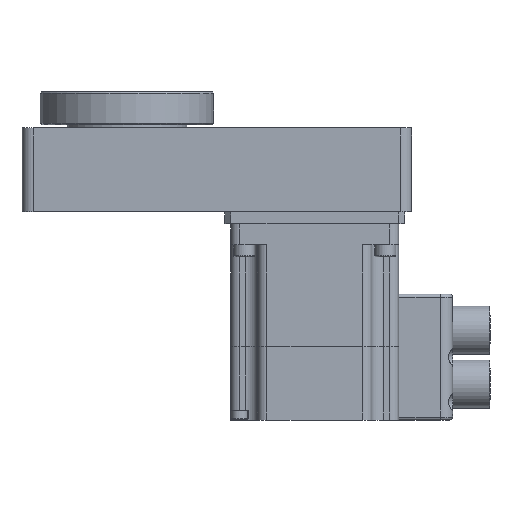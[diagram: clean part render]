
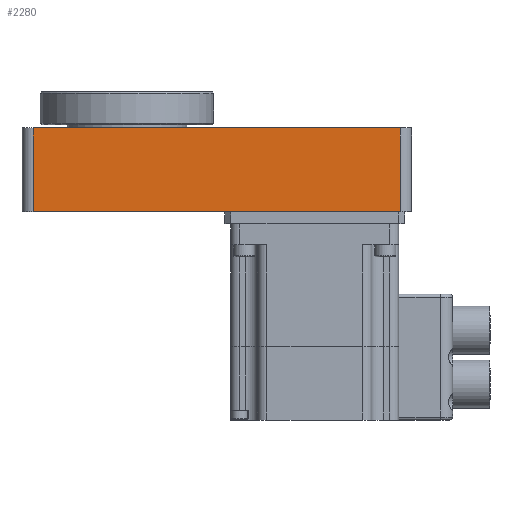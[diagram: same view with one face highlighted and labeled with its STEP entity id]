
A CAD part, front view. The second image highlights one B-rep face of the part: STEP entity #2280.
In plain terms, the highlighted planar face has unit normal (0, -1, 0).
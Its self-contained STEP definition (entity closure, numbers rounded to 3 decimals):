
#1885=CARTESIAN_POINT('',(3.75,0.,28.));
#1886=VERTEX_POINT('',#1885);
#1894=CARTESIAN_POINT('',(126.25,0.,28.));
#1895=VERTEX_POINT('',#1894);
#1896=CARTESIAN_POINT('',(126.25,0.,28.));
#1897=DIRECTION('',(-1.0,0.0,0.0));
#1898=VECTOR('',#1897,122.5);
#1899=LINE('',#1896,#1898);
#1900=EDGE_CURVE('',#1895,#1886,#1899,.T.);
#2142=CARTESIAN_POINT('',(126.25,0.,0.0));
#2143=VERTEX_POINT('',#2142);
#2151=CARTESIAN_POINT('',(3.75,0.,0.0));
#2152=VERTEX_POINT('',#2151);
#2153=CARTESIAN_POINT('',(3.75,0.,0.0));
#2154=DIRECTION('',(1.0,0.0,0.0));
#2155=VECTOR('',#2154,122.5);
#2156=LINE('',#2153,#2155);
#2157=EDGE_CURVE('',#2152,#2143,#2156,.T.);
#2248=CARTESIAN_POINT('',(126.25,0.0,28.));
#2249=DIRECTION('',(0.0,0.0,-1.0));
#2250=VECTOR('',#2249,28.);
#2251=LINE('',#2248,#2250);
#2252=EDGE_CURVE('',#1895,#2143,#2251,.T.);
#2264=CARTESIAN_POINT('',(130.0,0.,0.0));
#2265=DIRECTION('',(0.0,-1.0,0.0));
#2266=DIRECTION('',(0.0,0.0,-1.0));
#2267=AXIS2_PLACEMENT_3D('',#2264,#2265,#2266);
#2268=PLANE('',#2267);
#2269=ORIENTED_EDGE('',*,*,#2252,.F.);
#2270=ORIENTED_EDGE('',*,*,#1900,.T.);
#2271=CARTESIAN_POINT('',(3.75,0.0,0.0));
#2272=DIRECTION('',(0.0,0.0,1.0));
#2273=VECTOR('',#2272,28.);
#2274=LINE('',#2271,#2273);
#2275=EDGE_CURVE('',#2152,#1886,#2274,.T.);
#2276=ORIENTED_EDGE('',*,*,#2275,.F.);
#2277=ORIENTED_EDGE('',*,*,#2157,.T.);
#2278=EDGE_LOOP('',(#2269,#2270,#2276,#2277));
#2279=FACE_OUTER_BOUND('',#2278,.T.);
#2280=ADVANCED_FACE('',(#2279),#2268,.T.);
